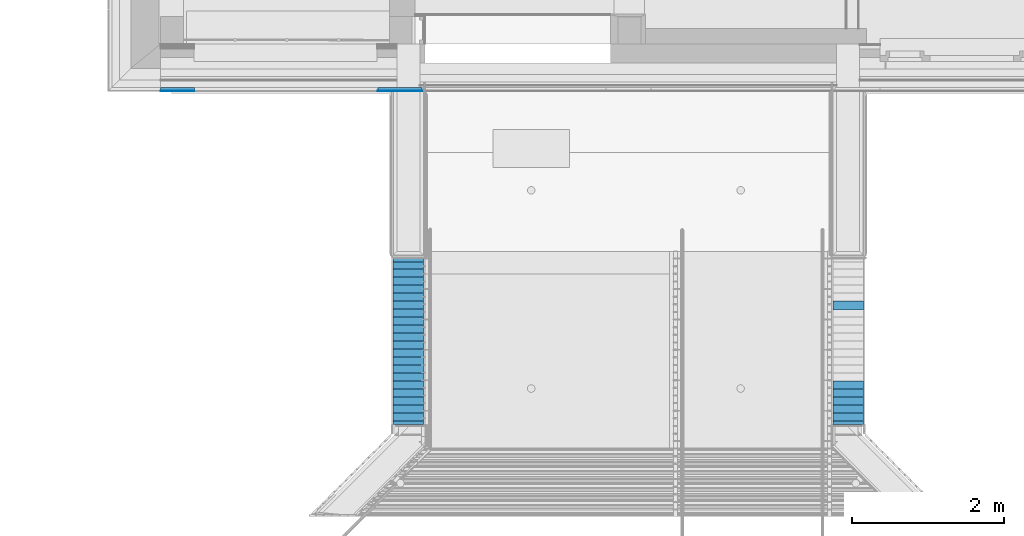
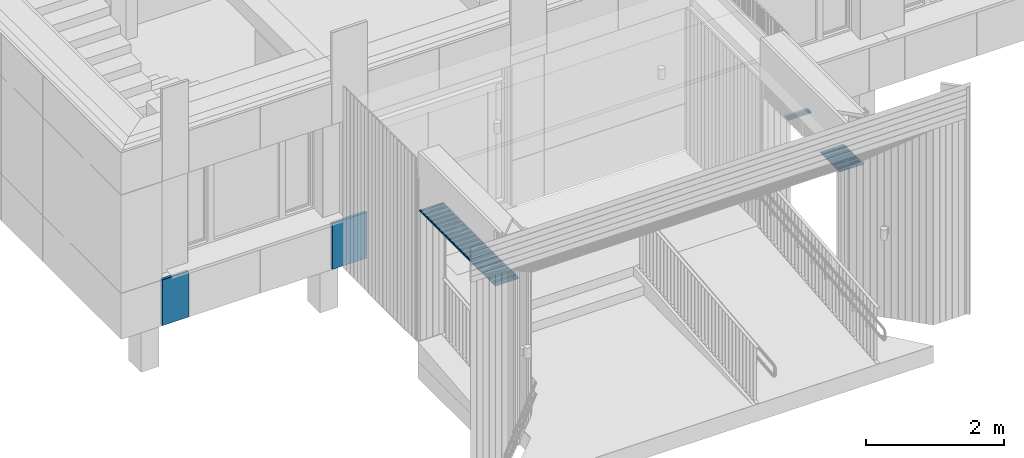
# One storey, part 58 of 418: 33 building element parts, 4 elements without a shape of their own.
"""IFC2X3 building model written with IfcOpenShell, lengths in millimetres."""

from ifc_helpers import new_model, entity, si_unit, converted_unit, derived_unit, money_unit, direction, frame, origin_with_axes, place, context, subcontext, project, spatial, polyline, outline, extrude, material, type_object, element, aggregate, save


model = new_model("IFC2X3")

# Units and contexts
model_context = context("Model", 3, precision=0.01, world=origin_with_axes(), true_north=direction((0.0, 1.0)))
body_context = subcontext(model_context, "Body", "Model", "MODEL_VIEW")
ifc_project = project(units=[si_unit("LENGTHUNIT", "METRE", prefix="MILLI"), si_unit("AREAUNIT", "SQUARE_METRE"), si_unit("VOLUMEUNIT", "CUBIC_METRE"), converted_unit("PLANEANGLEUNIT", "DEGREE", entity("IfcPlaneAngleMeasure", 0.0174532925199), si_unit("PLANEANGLEUNIT", "RADIAN"), dimensions=[0, 0, 0, 0, 0, 0, 0]), si_unit("SOLIDANGLEUNIT", "STERADIAN"), money_unit("EUR"), converted_unit("TIMEUNIT", "Year", entity("IfcTimeMeasure", 31556926.0), si_unit("TIMEUNIT", "SECOND"), dimensions=[0, 0, 1, 0, 0, 0, 0]), si_unit("MASSUNIT", "GRAM", prefix="KILO"), si_unit("THERMODYNAMICTEMPERATUREUNIT", "DEGREE_CELSIUS"), si_unit("LUMINOUSINTENSITYUNIT", "LUMEN"), si_unit("ENERGYUNIT", "JOULE", prefix="MEGA"), derived_unit("THERMALCONDUCTANCEUNIT", [(si_unit("POWERUNIT", "WATT"), 1), (si_unit("LENGTHUNIT", "METRE"), -1), (si_unit("THERMODYNAMICTEMPERATUREUNIT", "KELVIN"), -1)]), derived_unit("SPECIFICHEATCAPACITYUNIT", [(si_unit("ENERGYUNIT", "JOULE"), 1), (si_unit("MASSUNIT", "GRAM", prefix="KILO"), -1), (si_unit("THERMODYNAMICTEMPERATUREUNIT", "KELVIN"), -1)]), derived_unit("MASSDENSITYUNIT", [(si_unit("MASSUNIT", "GRAM", prefix="KILO"), 1), (si_unit("VOLUMEUNIT", "CUBIC_METRE"), -1)])], contexts=[model_context])

# Site, building, storey
site_placement = place(None, origin_with_axes())
site = spatial("IfcSite", under=ifc_project, at=site_placement, Name="Paldiski mnt 245/1, Tallinn, Harjumaa", CompositionType="COMPLEX")
building_placement = place(site_placement, origin_with_axes())
building = spatial("IfcBuilding", under=site, at=building_placement, Name="RKAS Hoone üldnimetus (kasutust iseloomustav) -> IFC Project Manager -> SOLIBRI", CompositionType="ELEMENT")
storey_placement = place(building_placement, origin_with_axes())
storey = spatial("IfcBuildingStorey", under=building, at=storey_placement, Name="Esimene korrus", CompositionType="ELEMENT", Elevation=0.0)

# Covering, building element parts
covering_type = type_object("IfcCoveringType", Name="VS-02_Cembrit_c040 50", PredefinedType="NOTDEFINED")
covering_1_placement = place(storey_placement, frame((-47590.0, -13130.0843011, 0.0), z_axis=(0.0, 0.0, 1.0), x_axis=(1.0, 0.0, 0.0)))
covering_1 = element("IfcCovering", 1, at=covering_1_placement, inside=storey, type_object=covering_type, Name="VS-02", PredefinedType="NOTDEFINED")
ifc_material_1 = material(Name="Cembrit_C040")
building_element_part_1_placement = place(covering_1_placement, origin_with_axes())
building_element_part_1 = element("IfcBuildingElementPart", 2, at=building_element_part_1_placement, material=ifc_material_1, Name="Cembrit_C040", context=body_context, shape_type="SweptSolid", body=[
    extrude(outline(polyline([(0.0, 0.0), (444.0, 0.0), (444.0, 8.0), (0.0, 8.0), (0.0, 0.0)])), origin_with_axes(), (0.0, 0.0, 1.0), 810.0),
])
ifc_material_2 = material(Name="VKR-06_Õhkvahe")
building_element_part_2_placement = place(covering_1_placement, origin_with_axes())
building_element_part_2 = element("IfcBuildingElementPart", 3, at=building_element_part_2_placement, material=ifc_material_2, Name="VKR-06_Õhkvahe", context=body_context, shape_type="SweptSolid", body=[
    extrude(outline(polyline([(0.0, 8.0), (444.0, 8.0), (444.0, 50.0), (0.0, 50.0), (0.0, 8.0)])), origin_with_axes(), (0.0, 0.0, 1.0), 810.0),
])
aggregate(covering_1, [building_element_part_1, building_element_part_2])

# Proxy, building element parts
building_element_proxy_type = type_object("IfcBuildingElementProxyType", Name="Laudis ava ülemine serv_01 2200 x 21", PredefinedType="NOTDEFINED")
proxy_1_placement = place(storey_placement, frame((-44140.0, -15302.0843015, 2280.0), z_axis=(0.0, 0.0, 1.0), x_axis=(-1.0, 0.0, 0.0)))
proxy_1 = element("IfcBuildingElementProxy", 4, at=proxy_1_placement, inside=storey, type_object=building_element_proxy_type, Name="Varikatus")
ifc_material_3 = material(Name="Laudis 5072 Honka 45 horisontaalne")
building_element_part_3_placement = place(proxy_1_placement, origin_with_axes())
building_element_part_3 = element("IfcBuildingElementPart", 5, at=building_element_part_3_placement, material=ifc_material_3, Name="Laudis 5072 Honka 45 horisontaalne", context=body_context, shape_type="SweptSolid", body=[
    extrude(outline(polyline([(73.1789257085, 0.0), (173.178925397, 0.0), (173.178925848, 9.99999952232), (153.178926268, 10.0000004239), (153.178925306, 21.0000001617), (138.602738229, 21.0000005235), (138.602737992, 14.000001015), (132.96206958, 14.0000003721), (132.962068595, 21.0000008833), (118.133576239, 20.9999999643), (118.133576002, 14.0000004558), (112.006635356, 14.0000000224), (112.006635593, 20.9999995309), (97.0675184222, 20.9999996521), (97.0675181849, 14.0000001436), (90.7050211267, 14.0000004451), (90.7050201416, 21.0000009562), (53.1789256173, 20.9999999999), (53.1789252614, 10.5000007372), (73.1789258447, 10.5000010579), (73.1789257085, 0.0)])), frame((0.0, 0.0, 0.0), z_axis=(1.0, 0.0, 0.0), x_axis=(0.0, 1.0, 0.0)), (0.0, 0.0, 1.0), 400.0),
])
building_element_part_4_placement = place(proxy_1_placement, origin_with_axes())
building_element_part_4 = element("IfcBuildingElementPart", 6, at=building_element_part_4_placement, material=ifc_material_3, Name="Laudis 5072 Honka 45 horisontaalne", context=body_context, shape_type="SweptSolid", body=[
    extrude(outline(polyline([(0.0, 0.0), (68.1789252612, 0.0), (68.178925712, 9.99999952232), (48.1789261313, 10.0000004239), (48.17892517, 21.0000001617), (33.6027380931, 21.0000005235), (33.6027378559, 14.000001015), (27.9620694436, 14.0000003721), (27.9620684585, 21.0000008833), (13.1335761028, 20.9999999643), (13.1335758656, 14.0000004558), (7.00663521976, 14.0000000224), (7.006635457, 20.9999995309), (0.0, 20.9999995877), (0.0, 0.0)])), frame((0.0, 0.0, 0.0), z_axis=(1.0, 0.0, 0.0), x_axis=(0.0, 1.0, 0.0)), (0.0, 0.0, 1.0), 400.0),
])
building_element_part_5_placement = place(proxy_1_placement, origin_with_axes())
building_element_part_5 = element("IfcBuildingElementPart", 7, at=building_element_part_5_placement, material=ifc_material_3, Name="Laudis 5072 Honka 45 horisontaalne", context=body_context, shape_type="SweptSolid", body=[
    extrude(outline(polyline([(178.178925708, 0.0), (278.178925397, 0.0), (278.178925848, 9.99999952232), (258.178926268, 10.0000004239), (258.178925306, 21.0000001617), (243.602738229, 21.0000005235), (243.602737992, 14.000001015), (237.96206958, 14.0000003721), (237.962068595, 21.0000008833), (223.133576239, 20.9999999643), (223.133576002, 14.0000004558), (217.006635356, 14.0000000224), (217.006635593, 20.9999995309), (202.067518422, 20.9999996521), (202.067518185, 14.0000001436), (195.705021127, 14.0000004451), (195.705020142, 21.0000009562), (158.178925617, 20.9999999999), (158.178925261, 10.5000007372), (178.178925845, 10.5000010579), (178.178925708, 0.0)])), frame((0.0, 0.0, 0.0), z_axis=(1.0, 0.0, 0.0), x_axis=(0.0, 1.0, 0.0)), (0.0, 0.0, 1.0), 400.0),
])
building_element_part_6_placement = place(proxy_1_placement, origin_with_axes())
building_element_part_6 = element("IfcBuildingElementPart", 8, at=building_element_part_6_placement, material=ifc_material_3, Name="Laudis 5072 Honka 45 horisontaalne", context=body_context, shape_type="SweptSolid", body=[
    extrude(outline(polyline([(283.178925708, 0.0), (383.178925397, 0.0), (383.178925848, 9.99999952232), (363.178926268, 10.0000004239), (363.178925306, 21.0000001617), (348.602738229, 21.0000005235), (348.602737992, 14.000001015), (342.96206958, 14.0000003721), (342.962068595, 21.0000008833), (328.133576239, 20.9999999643), (328.133576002, 14.0000004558), (322.006635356, 14.0000000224), (322.006635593, 20.9999995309), (307.067518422, 20.9999996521), (307.067518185, 14.0000001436), (300.705021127, 14.0000004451), (300.705020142, 21.0000009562), (263.178925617, 20.9999999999), (263.178925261, 10.5000007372), (283.178925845, 10.5000010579), (283.178925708, 0.0)])), frame((0.0, 0.0, 0.0), z_axis=(1.0, 0.0, 0.0), x_axis=(0.0, 1.0, 0.0)), (0.0, 0.0, 1.0), 400.0),
])
building_element_part_7_placement = place(proxy_1_placement, origin_with_axes())
building_element_part_7 = element("IfcBuildingElementPart", 9, at=building_element_part_7_placement, material=ifc_material_3, Name="Laudis 5072 Honka 45 horisontaalne", context=body_context, shape_type="SweptSolid", body=[
    extrude(outline(polyline([(388.178925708, 0.0), (488.178925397, 0.0), (488.178925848, 9.99999952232), (468.178926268, 10.0000004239), (468.178925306, 21.0000001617), (453.602738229, 21.0000005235), (453.602737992, 14.000001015), (447.96206958, 14.0000003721), (447.962068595, 21.0000008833), (433.133576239, 20.9999999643), (433.133576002, 14.0000004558), (427.006635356, 14.0000000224), (427.006635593, 20.9999995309), (412.067518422, 20.9999996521), (412.067518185, 14.0000001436), (405.705021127, 14.0000004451), (405.705020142, 21.0000009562), (368.178925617, 20.9999999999), (368.178925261, 10.5000007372), (388.178925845, 10.5000010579), (388.178925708, 0.0)])), frame((0.0, 0.0, 0.0), z_axis=(1.0, 0.0, 0.0), x_axis=(0.0, 1.0, 0.0)), (0.0, 0.0, 1.0), 400.0),
])
building_element_part_8_placement = place(proxy_1_placement, origin_with_axes())
building_element_part_8 = element("IfcBuildingElementPart", 10, at=building_element_part_8_placement, material=ifc_material_3, Name="Laudis 5072 Honka 45 horisontaalne", context=body_context, shape_type="SweptSolid", body=[
    extrude(outline(polyline([(493.178925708, 0.0), (593.178925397, 0.0), (593.178925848, 9.99999952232), (573.178926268, 10.0000004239), (573.178925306, 21.0000001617), (558.602738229, 21.0000005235), (558.602737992, 14.000001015), (552.96206958, 14.0000003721), (552.962068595, 21.0000008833), (538.133576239, 20.9999999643), (538.133576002, 14.0000004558), (532.006635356, 14.0000000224), (532.006635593, 20.9999995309), (517.067518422, 20.9999996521), (517.067518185, 14.0000001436), (510.705021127, 14.0000004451), (510.705020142, 21.0000009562), (473.178925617, 20.9999999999), (473.178925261, 10.5000007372), (493.178925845, 10.5000010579), (493.178925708, 0.0)])), frame((0.0, 0.0, 0.0), z_axis=(1.0, 0.0, 0.0), x_axis=(0.0, 1.0, 0.0)), (0.0, 0.0, 1.0), 400.0),
])
building_element_part_9_placement = place(proxy_1_placement, origin_with_axes())
building_element_part_9 = element("IfcBuildingElementPart", 11, at=building_element_part_9_placement, material=ifc_material_3, Name="Laudis 5072 Honka 45 horisontaalne", context=body_context, shape_type="SweptSolid", body=[
    extrude(outline(polyline([(598.178925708, 0.0), (698.178925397, 0.0), (698.178925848, 9.99999952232), (678.178926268, 10.0000004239), (678.178925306, 21.0000001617), (663.602738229, 21.0000005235), (663.602737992, 14.000001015), (657.96206958, 14.0000003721), (657.962068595, 21.0000008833), (643.133576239, 20.9999999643), (643.133576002, 14.0000004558), (637.006635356, 14.0000000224), (637.006635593, 20.9999995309), (622.067518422, 20.9999996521), (622.067518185, 14.0000001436), (615.705021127, 14.0000004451), (615.705020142, 21.0000009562), (578.178925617, 20.9999999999), (578.178925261, 10.5000007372), (598.178925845, 10.5000010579), (598.178925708, 0.0)])), frame((0.0, 0.0, 0.0), z_axis=(1.0, 0.0, 0.0), x_axis=(0.0, 1.0, 0.0)), (0.0, 0.0, 1.0), 400.0),
])
building_element_part_10_placement = place(proxy_1_placement, origin_with_axes())
building_element_part_10 = element("IfcBuildingElementPart", 12, at=building_element_part_10_placement, material=ifc_material_3, Name="Laudis 5072 Honka 45 horisontaalne", context=body_context, shape_type="SweptSolid", body=[
    extrude(outline(polyline([(703.178925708, 0.0), (803.178925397, 0.0), (803.178925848, 9.99999952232), (783.178926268, 10.0000004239), (783.178925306, 21.0000001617), (768.602738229, 21.0000005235), (768.602737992, 14.000001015), (762.96206958, 14.0000003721), (762.962068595, 21.0000008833), (748.133576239, 20.9999999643), (748.133576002, 14.0000004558), (742.006635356, 14.0000000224), (742.006635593, 20.9999995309), (727.067518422, 20.9999996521), (727.067518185, 14.0000001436), (720.705021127, 14.0000004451), (720.705020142, 21.0000009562), (683.178925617, 20.9999999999), (683.178925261, 10.5000007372), (703.178925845, 10.5000010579), (703.178925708, 0.0)])), frame((0.0, 0.0, 0.0), z_axis=(1.0, 0.0, 0.0), x_axis=(0.0, 1.0, 0.0)), (0.0, 0.0, 1.0), 400.0),
])
building_element_part_11_placement = place(proxy_1_placement, origin_with_axes())
building_element_part_11 = element("IfcBuildingElementPart", 13, at=building_element_part_11_placement, material=ifc_material_3, Name="Laudis 5072 Honka 45 horisontaalne", context=body_context, shape_type="SweptSolid", body=[
    extrude(outline(polyline([(808.178925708, 0.0), (908.178925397, 0.0), (908.178925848, 9.99999952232), (888.178926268, 10.0000004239), (888.178925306, 21.0000001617), (873.602738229, 21.0000005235), (873.602737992, 14.000001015), (867.96206958, 14.0000003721), (867.962068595, 21.0000008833), (853.133576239, 20.9999999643), (853.133576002, 14.0000004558), (847.006635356, 14.0000000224), (847.006635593, 20.9999995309), (832.067518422, 20.9999996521), (832.067518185, 14.0000001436), (825.705021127, 14.0000004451), (825.705020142, 21.0000009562), (788.178925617, 20.9999999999), (788.178925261, 10.5000007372), (808.178925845, 10.5000010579), (808.178925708, 0.0)])), frame((0.0, 0.0, 0.0), z_axis=(1.0, 0.0, 0.0), x_axis=(0.0, 1.0, 0.0)), (0.0, 0.0, 1.0), 400.0),
])
building_element_part_12_placement = place(proxy_1_placement, origin_with_axes())
building_element_part_12 = element("IfcBuildingElementPart", 14, at=building_element_part_12_placement, material=ifc_material_3, Name="Laudis 5072 Honka 45 horisontaalne", context=body_context, shape_type="SweptSolid", body=[
    extrude(outline(polyline([(913.178925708, 0.0), (1013.1789254, 0.0), (1013.17892585, 9.99999952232), (993.178926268, 10.0000004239), (993.178925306, 21.0000001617), (978.602738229, 21.0000005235), (978.602737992, 14.000001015), (972.96206958, 14.0000003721), (972.962068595, 21.0000008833), (958.133576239, 20.9999999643), (958.133576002, 14.0000004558), (952.006635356, 14.0000000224), (952.006635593, 20.9999995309), (937.067518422, 20.9999996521), (937.067518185, 14.0000001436), (930.705021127, 14.0000004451), (930.705020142, 21.0000009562), (893.178925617, 20.9999999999), (893.178925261, 10.5000007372), (913.178925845, 10.5000010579), (913.178925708, 0.0)])), frame((0.0, 0.0, 0.0), z_axis=(1.0, 0.0, 0.0), x_axis=(0.0, 1.0, 0.0)), (0.0, 0.0, 1.0), 400.0),
])
building_element_part_13_placement = place(proxy_1_placement, origin_with_axes())
building_element_part_13 = element("IfcBuildingElementPart", 15, at=building_element_part_13_placement, material=ifc_material_3, Name="Laudis 5072 Honka 45 horisontaalne", context=body_context, shape_type="SweptSolid", body=[
    extrude(outline(polyline([(1018.17892571, 0.0), (1118.1789254, 0.0), (1118.17892585, 9.99999952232), (1098.17892627, 10.0000004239), (1098.17892531, 21.0000001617), (1083.60273823, 21.0000005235), (1083.60273799, 14.000001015), (1077.96206958, 14.0000003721), (1077.96206859, 21.0000008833), (1063.13357624, 20.9999999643), (1063.133576, 14.0000004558), (1057.00663536, 14.0000000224), (1057.00663559, 20.9999995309), (1042.06751842, 20.9999996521), (1042.06751818, 14.0000001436), (1035.70502113, 14.0000004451), (1035.70502014, 21.0000009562), (998.178925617, 20.9999999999), (998.178925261, 10.5000007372), (1018.17892584, 10.5000010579), (1018.17892571, 0.0)])), frame((0.0, 0.0, 0.0), z_axis=(1.0, 0.0, 0.0), x_axis=(0.0, 1.0, 0.0)), (0.0, 0.0, 1.0), 400.0),
])
building_element_part_14_placement = place(proxy_1_placement, origin_with_axes())
building_element_part_14 = element("IfcBuildingElementPart", 16, at=building_element_part_14_placement, material=ifc_material_3, Name="Laudis 5072 Honka 45 horisontaalne", context=body_context, shape_type="SweptSolid", body=[
    extrude(outline(polyline([(1123.17892571, 0.0), (1223.1789254, 0.0), (1223.17892585, 9.99999952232), (1203.17892627, 10.0000004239), (1203.17892531, 21.0000001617), (1188.60273823, 21.0000005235), (1188.60273799, 14.000001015), (1182.96206958, 14.0000003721), (1182.96206859, 21.0000008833), (1168.13357624, 20.9999999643), (1168.133576, 14.0000004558), (1162.00663536, 14.0000000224), (1162.00663559, 20.9999995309), (1147.06751842, 20.9999996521), (1147.06751818, 14.0000001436), (1140.70502113, 14.0000004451), (1140.70502014, 21.0000009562), (1103.17892562, 20.9999999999), (1103.17892526, 10.5000007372), (1123.17892584, 10.5000010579), (1123.17892571, 0.0)])), frame((0.0, 0.0, 0.0), z_axis=(1.0, 0.0, 0.0), x_axis=(0.0, 1.0, 0.0)), (0.0, 0.0, 1.0), 400.0),
])
building_element_part_15_placement = place(proxy_1_placement, origin_with_axes())
building_element_part_15 = element("IfcBuildingElementPart", 17, at=building_element_part_15_placement, material=ifc_material_3, Name="Laudis 5072 Honka 45 horisontaalne", context=body_context, shape_type="SweptSolid", body=[
    extrude(outline(polyline([(1228.17892571, 0.0), (1328.1789254, 0.0), (1328.17892585, 9.99999952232), (1308.17892627, 10.0000004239), (1308.17892531, 21.0000001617), (1293.60273823, 21.0000005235), (1293.60273799, 14.000001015), (1287.96206958, 14.0000003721), (1287.96206859, 21.0000008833), (1273.13357624, 20.9999999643), (1273.133576, 14.0000004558), (1267.00663536, 14.0000000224), (1267.00663559, 20.9999995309), (1252.06751842, 20.9999996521), (1252.06751818, 14.0000001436), (1245.70502113, 14.0000004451), (1245.70502014, 21.0000009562), (1208.17892562, 20.9999999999), (1208.17892526, 10.5000007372), (1228.17892584, 10.5000010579), (1228.17892571, 0.0)])), frame((0.0, 0.0, 0.0), z_axis=(1.0, 0.0, 0.0), x_axis=(0.0, 1.0, 0.0)), (0.0, 0.0, 1.0), 400.0),
])
building_element_part_16_placement = place(proxy_1_placement, origin_with_axes())
building_element_part_16 = element("IfcBuildingElementPart", 18, at=building_element_part_16_placement, material=ifc_material_3, Name="Laudis 5072 Honka 45 horisontaalne", context=body_context, shape_type="SweptSolid", body=[
    extrude(outline(polyline([(1333.17892571, 0.0), (1433.1789254, 0.0), (1433.17892585, 9.99999952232), (1413.17892627, 10.0000004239), (1413.17892531, 21.0000001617), (1398.60273823, 21.0000005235), (1398.60273799, 14.000001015), (1392.96206958, 14.0000003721), (1392.96206859, 21.0000008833), (1378.13357624, 20.9999999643), (1378.133576, 14.0000004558), (1372.00663536, 14.0000000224), (1372.00663559, 20.9999995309), (1357.06751842, 20.9999996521), (1357.06751818, 14.0000001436), (1350.70502113, 14.0000004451), (1350.70502014, 21.0000009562), (1313.17892562, 20.9999999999), (1313.17892526, 10.5000007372), (1333.17892584, 10.5000010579), (1333.17892571, 0.0)])), frame((0.0, 0.0, 0.0), z_axis=(1.0, 0.0, 0.0), x_axis=(0.0, 1.0, 0.0)), (0.0, 0.0, 1.0), 400.0),
])
building_element_part_17_placement = place(proxy_1_placement, origin_with_axes())
building_element_part_17 = element("IfcBuildingElementPart", 19, at=building_element_part_17_placement, material=ifc_material_3, Name="Laudis 5072 Honka 45 horisontaalne", context=body_context, shape_type="SweptSolid", body=[
    extrude(outline(polyline([(1438.17892571, 0.0), (1538.1789254, 0.0), (1538.17892585, 9.99999952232), (1518.17892627, 10.0000004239), (1518.17892531, 21.0000001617), (1503.60273823, 21.0000005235), (1503.60273799, 14.000001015), (1497.96206958, 14.0000003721), (1497.96206859, 21.0000008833), (1483.13357624, 20.9999999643), (1483.133576, 14.0000004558), (1477.00663536, 14.0000000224), (1477.00663559, 20.9999995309), (1462.06751842, 20.9999996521), (1462.06751818, 14.0000001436), (1455.70502113, 14.0000004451), (1455.70502014, 21.0000009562), (1418.17892562, 20.9999999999), (1418.17892526, 10.5000007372), (1438.17892584, 10.5000010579), (1438.17892571, 0.0)])), frame((0.0, 0.0, 0.0), z_axis=(1.0, 0.0, 0.0), x_axis=(0.0, 1.0, 0.0)), (0.0, 0.0, 1.0), 400.0),
])
building_element_part_18_placement = place(proxy_1_placement, origin_with_axes())
building_element_part_18 = element("IfcBuildingElementPart", 20, at=building_element_part_18_placement, material=ifc_material_3, Name="Laudis 5072 Honka 45 horisontaalne", context=body_context, shape_type="SweptSolid", body=[
    extrude(outline(polyline([(1543.17892571, 0.0), (1643.1789254, 0.0), (1643.17892585, 9.99999952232), (1623.17892627, 10.0000004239), (1623.17892531, 21.0000001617), (1608.60273823, 21.0000005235), (1608.60273799, 14.000001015), (1602.96206958, 14.0000003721), (1602.96206859, 21.0000008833), (1588.13357624, 20.9999999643), (1588.133576, 14.0000004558), (1582.00663536, 14.0000000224), (1582.00663559, 20.9999995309), (1567.06751842, 20.9999996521), (1567.06751818, 14.0000001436), (1560.70502113, 14.0000004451), (1560.70502014, 21.0000009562), (1523.17892562, 20.9999999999), (1523.17892526, 10.5000007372), (1543.17892584, 10.5000010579), (1543.17892571, 0.0)])), frame((0.0, 0.0, 0.0), z_axis=(1.0, 0.0, 0.0), x_axis=(0.0, 1.0, 0.0)), (0.0, 0.0, 1.0), 400.0),
])
building_element_part_19_placement = place(proxy_1_placement, origin_with_axes())
building_element_part_19 = element("IfcBuildingElementPart", 21, at=building_element_part_19_placement, material=ifc_material_3, Name="Laudis 5072 Honka 45 horisontaalne", context=body_context, shape_type="SweptSolid", body=[
    extrude(outline(polyline([(1648.17892571, 0.0), (1748.1789254, 0.0), (1748.17892585, 9.99999952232), (1728.17892627, 10.0000004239), (1728.17892531, 21.0000001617), (1713.60273823, 21.0000005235), (1713.60273799, 14.000001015), (1707.96206958, 14.0000003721), (1707.96206859, 21.0000008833), (1693.13357624, 20.9999999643), (1693.133576, 14.0000004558), (1687.00663536, 14.0000000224), (1687.00663559, 20.9999995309), (1672.06751842, 20.9999996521), (1672.06751818, 14.0000001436), (1665.70502113, 14.0000004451), (1665.70502014, 21.0000009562), (1628.17892562, 20.9999999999), (1628.17892526, 10.5000007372), (1648.17892584, 10.5000010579), (1648.17892571, 0.0)])), frame((0.0, 0.0, 0.0), z_axis=(1.0, 0.0, 0.0), x_axis=(0.0, 1.0, 0.0)), (0.0, 0.0, 1.0), 400.0),
])
building_element_part_20_placement = place(proxy_1_placement, origin_with_axes())
building_element_part_20 = element("IfcBuildingElementPart", 22, at=building_element_part_20_placement, material=ifc_material_3, Name="Laudis 5072 Honka 45 horisontaalne", context=body_context, shape_type="SweptSolid", body=[
    extrude(outline(polyline([(1753.17892571, 0.0), (1853.1789254, 0.0), (1853.17892585, 9.99999952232), (1833.17892627, 10.0000004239), (1833.17892531, 21.0000001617), (1818.60273823, 21.0000005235), (1818.60273799, 14.000001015), (1812.96206958, 14.0000003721), (1812.96206859, 21.0000008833), (1798.13357624, 20.9999999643), (1798.133576, 14.0000004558), (1792.00663536, 14.0000000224), (1792.00663559, 20.9999995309), (1777.06751842, 20.9999996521), (1777.06751818, 14.0000001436), (1770.70502113, 14.0000004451), (1770.70502014, 21.0000009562), (1733.17892562, 20.9999999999), (1733.17892526, 10.5000007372), (1753.17892584, 10.5000010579), (1753.17892571, 0.0)])), frame((0.0, 0.0, 0.0), z_axis=(1.0, 0.0, 0.0), x_axis=(0.0, 1.0, 0.0)), (0.0, 0.0, 1.0), 400.0),
])
building_element_part_21_placement = place(proxy_1_placement, origin_with_axes())
building_element_part_21 = element("IfcBuildingElementPart", 23, at=building_element_part_21_placement, material=ifc_material_3, Name="Laudis 5072 Honka 45 horisontaalne", context=body_context, shape_type="SweptSolid", body=[
    extrude(outline(polyline([(1858.17892571, 0.0), (1958.1789254, 0.0), (1958.17892585, 9.99999952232), (1938.17892627, 10.0000004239), (1938.17892531, 21.0000001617), (1923.60273823, 21.0000005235), (1923.60273799, 14.000001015), (1917.96206958, 14.0000003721), (1917.96206859, 21.0000008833), (1903.13357624, 20.9999999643), (1903.133576, 14.0000004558), (1897.00663536, 14.0000000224), (1897.00663559, 20.9999995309), (1882.06751842, 20.9999996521), (1882.06751818, 14.0000001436), (1875.70502113, 14.0000004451), (1875.70502014, 21.0000009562), (1838.17892562, 20.9999999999), (1838.17892526, 10.5000007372), (1858.17892584, 10.5000010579), (1858.17892571, 0.0)])), frame((0.0, 0.0, 0.0), z_axis=(1.0, 0.0, 0.0), x_axis=(0.0, 1.0, 0.0)), (0.0, 0.0, 1.0), 400.0),
])
building_element_part_22_placement = place(proxy_1_placement, origin_with_axes())
building_element_part_22 = element("IfcBuildingElementPart", 24, at=building_element_part_22_placement, material=ifc_material_3, Name="Laudis 5072 Honka 45 horisontaalne", context=body_context, shape_type="SweptSolid", body=[
    extrude(outline(polyline([(1963.17892571, 0.0), (2063.1789254, 0.0), (2063.17892585, 9.99999952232), (2043.17892627, 10.0000004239), (2043.17892531, 21.0000001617), (2028.60273823, 21.0000005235), (2028.60273799, 14.000001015), (2022.96206958, 14.0000003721), (2022.96206859, 21.0000008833), (2008.13357624, 20.9999999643), (2008.133576, 14.0000004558), (2002.00663536, 14.0000000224), (2002.00663559, 20.9999995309), (1987.06751842, 20.9999996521), (1987.06751818, 14.0000001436), (1980.70502113, 14.0000004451), (1980.70502014, 21.0000009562), (1943.17892562, 20.9999999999), (1943.17892526, 10.5000007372), (1963.17892584, 10.5000010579), (1963.17892571, 0.0)])), frame((0.0, 0.0, 0.0), z_axis=(1.0, 0.0, 0.0), x_axis=(0.0, 1.0, 0.0)), (0.0, 0.0, 1.0), 400.0),
])
building_element_part_23_placement = place(proxy_1_placement, origin_with_axes())
building_element_part_23 = element("IfcBuildingElementPart", 25, at=building_element_part_23_placement, material=ifc_material_3, Name="Laudis 5072 Honka 45 horisontaalne", context=body_context, shape_type="SweptSolid", body=[
    extrude(outline(polyline([(2068.17892571, 0.0), (2168.1789254, 0.0), (2168.17892585, 9.99999952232), (2148.17892627, 10.0000004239), (2148.17892531, 21.0000001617), (2133.60273823, 21.0000005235), (2133.60273799, 14.000001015), (2127.96206958, 14.0000003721), (2127.96206859, 21.0000008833), (2113.13357624, 20.9999999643), (2113.133576, 14.0000004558), (2107.00663536, 14.0000000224), (2107.00663559, 20.9999995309), (2092.06751842, 20.9999996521), (2092.06751818, 14.0000001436), (2085.70502113, 14.0000004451), (2085.70502014, 21.0000009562), (2048.17892562, 20.9999999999), (2048.17892526, 10.5000007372), (2068.17892584, 10.5000010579), (2068.17892571, 0.0)])), frame((0.0, 0.0, 0.0), z_axis=(1.0, 0.0, 0.0), x_axis=(0.0, 1.0, 0.0)), (0.0, 0.0, 1.0), 400.0),
])
building_element_part_24_placement = place(proxy_1_placement, origin_with_axes())
building_element_part_24 = element("IfcBuildingElementPart", 26, at=building_element_part_24_placement, material=ifc_material_3, Name="Laudis 5072 Honka 45 horisontaalne", context=body_context, shape_type="SweptSolid", body=[
    extrude(outline(polyline([(2173.17892571, 0.0), (2199.8250624, 0.0), (2199.8250624, 20.9999996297), (2197.06751842, 20.9999996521), (2197.06751818, 14.0000001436), (2190.70502113, 14.0000004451), (2190.70502014, 21.0000009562), (2153.17892562, 20.9999999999), (2153.17892526, 10.5000007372), (2173.17892584, 10.5000010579), (2173.17892571, 0.0)])), frame((0.0, 0.0, 0.0), z_axis=(1.0, 0.0, 0.0), x_axis=(0.0, 1.0, 0.0)), (0.0, 0.0, 1.0), 400.0),
])
aggregate(proxy_1, [building_element_part_3, building_element_part_4, building_element_part_5, building_element_part_6, building_element_part_7, building_element_part_8, building_element_part_9, building_element_part_10, building_element_part_11, building_element_part_12, building_element_part_13, building_element_part_14, building_element_part_15, building_element_part_16, building_element_part_17, building_element_part_18, building_element_part_19, building_element_part_20, building_element_part_21, building_element_part_22, building_element_part_23, building_element_part_24])

proxy_2_placement = place(storey_placement, frame((-38766.0, -15302.0843015, 2280.0), z_axis=(0.0, 0.0, 1.0), x_axis=(1.0, 0.0, 0.0)))
proxy_2 = element("IfcBuildingElementProxy", 27, at=proxy_2_placement, inside=storey, type_object=building_element_proxy_type, Name="Varikatus")
building_element_part_25_placement = place(proxy_2_placement, origin_with_axes())
building_element_part_25 = element("IfcBuildingElementPart", 28, at=building_element_part_25_placement, material=ifc_material_3, Name="Laudis 5072 Honka 45 horisontaalne", context=body_context, shape_type="SweptSolid", body=[
    extrude(outline(polyline([(598.178925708, 0.0), (698.178925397, 0.0), (698.178925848, 9.99999952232), (678.178926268, 10.0000004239), (678.178925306, 21.0000001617), (663.602738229, 21.0000005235), (663.602737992, 14.000001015), (657.96206958, 14.0000003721), (657.962068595, 21.0000008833), (643.133576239, 20.9999999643), (643.133576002, 14.0000004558), (637.006635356, 14.0000000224), (637.006635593, 20.9999995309), (622.067518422, 20.9999996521), (622.067518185, 14.0000001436), (615.705021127, 14.0000004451), (615.705020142, 21.0000009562), (578.178925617, 20.9999999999), (578.178925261, 10.5000007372), (598.178925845, 10.5000010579), (598.178925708, 0.0)])), frame((0.0, 0.0, 0.0), z_axis=(-1.0, 0.0, 0.0), x_axis=(0.0, -1.0, 0.0)), (0.0, 0.0, -1.0), 396.0),
])
building_element_part_26_placement = place(proxy_2_placement, origin_with_axes())
building_element_part_26 = element("IfcBuildingElementPart", 29, at=building_element_part_26_placement, material=ifc_material_3, Name="Laudis 5072 Honka 45 horisontaalne", context=body_context, shape_type="SweptSolid", body=[
    extrude(outline(polyline([(1648.17892571, 0.0), (1748.1789254, 0.0), (1748.17892585, 9.99999952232), (1728.17892627, 10.0000004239), (1728.17892531, 21.0000001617), (1713.60273823, 21.0000005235), (1713.60273799, 14.000001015), (1707.96206958, 14.0000003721), (1707.96206859, 21.0000008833), (1693.13357624, 20.9999999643), (1693.133576, 14.0000004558), (1687.00663536, 14.0000000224), (1687.00663559, 20.9999995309), (1672.06751842, 20.9999996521), (1672.06751818, 14.0000001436), (1665.70502113, 14.0000004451), (1665.70502014, 21.0000009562), (1628.17892562, 20.9999999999), (1628.17892526, 10.5000007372), (1648.17892584, 10.5000010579), (1648.17892571, 0.0)])), frame((0.0, 0.0, 0.0), z_axis=(-1.0, 0.0, 0.0), x_axis=(0.0, -1.0, 0.0)), (0.0, 0.0, -1.0), 396.0),
])
building_element_part_27_placement = place(proxy_2_placement, origin_with_axes())
building_element_part_27 = element("IfcBuildingElementPart", 30, at=building_element_part_27_placement, material=ifc_material_3, Name="Laudis 5072 Honka 45 horisontaalne", context=body_context, shape_type="SweptSolid", body=[
    extrude(outline(polyline([(1753.17892571, 0.0), (1853.1789254, 0.0), (1853.17892585, 9.99999952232), (1833.17892627, 10.0000004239), (1833.17892531, 21.0000001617), (1818.60273823, 21.0000005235), (1818.60273799, 14.000001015), (1812.96206958, 14.0000003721), (1812.96206859, 21.0000008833), (1798.13357624, 20.9999999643), (1798.133576, 14.0000004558), (1792.00663536, 14.0000000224), (1792.00663559, 20.9999995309), (1777.06751842, 20.9999996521), (1777.06751818, 14.0000001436), (1770.70502113, 14.0000004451), (1770.70502014, 21.0000009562), (1733.17892562, 20.9999999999), (1733.17892526, 10.5000007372), (1753.17892584, 10.5000010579), (1753.17892571, 0.0)])), frame((0.0, 0.0, 0.0), z_axis=(-1.0, 0.0, 0.0), x_axis=(0.0, -1.0, 0.0)), (0.0, 0.0, -1.0), 396.0),
])
building_element_part_28_placement = place(proxy_2_placement, origin_with_axes())
building_element_part_28 = element("IfcBuildingElementPart", 31, at=building_element_part_28_placement, material=ifc_material_3, Name="Laudis 5072 Honka 45 horisontaalne", context=body_context, shape_type="SweptSolid", body=[
    extrude(outline(polyline([(1858.17892571, 0.0), (1958.1789254, 0.0), (1958.17892585, 9.99999952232), (1938.17892627, 10.0000004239), (1938.17892531, 21.0000001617), (1923.60273823, 21.0000005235), (1923.60273799, 14.000001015), (1917.96206958, 14.0000003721), (1917.96206859, 21.0000008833), (1903.13357624, 20.9999999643), (1903.133576, 14.0000004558), (1897.00663536, 14.0000000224), (1897.00663559, 20.9999995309), (1882.06751842, 20.9999996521), (1882.06751818, 14.0000001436), (1875.70502113, 14.0000004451), (1875.70502014, 21.0000009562), (1838.17892562, 20.9999999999), (1838.17892526, 10.5000007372), (1858.17892584, 10.5000010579), (1858.17892571, 0.0)])), frame((0.0, 0.0, 0.0), z_axis=(-1.0, 0.0, 0.0), x_axis=(0.0, -1.0, 0.0)), (0.0, 0.0, -1.0), 396.0),
])
building_element_part_29_placement = place(proxy_2_placement, origin_with_axes())
building_element_part_29 = element("IfcBuildingElementPart", 32, at=building_element_part_29_placement, material=ifc_material_3, Name="Laudis 5072 Honka 45 horisontaalne", context=body_context, shape_type="SweptSolid", body=[
    extrude(outline(polyline([(1963.17892571, 0.0), (2063.1789254, 0.0), (2063.17892585, 9.99999952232), (2043.17892627, 10.0000004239), (2043.17892531, 21.0000001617), (2028.60273823, 21.0000005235), (2028.60273799, 14.000001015), (2022.96206958, 14.0000003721), (2022.96206859, 21.0000008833), (2008.13357624, 20.9999999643), (2008.133576, 14.0000004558), (2002.00663536, 14.0000000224), (2002.00663559, 20.9999995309), (1987.06751842, 20.9999996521), (1987.06751818, 14.0000001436), (1980.70502113, 14.0000004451), (1980.70502014, 21.0000009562), (1943.17892562, 20.9999999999), (1943.17892526, 10.5000007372), (1963.17892584, 10.5000010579), (1963.17892571, 0.0)])), frame((0.0, 0.0, 0.0), z_axis=(-1.0, 0.0, 0.0), x_axis=(0.0, -1.0, 0.0)), (0.0, 0.0, -1.0), 396.0),
])
building_element_part_30_placement = place(proxy_2_placement, origin_with_axes())
building_element_part_30 = element("IfcBuildingElementPart", 33, at=building_element_part_30_placement, material=ifc_material_3, Name="Laudis 5072 Honka 45 horisontaalne", context=body_context, shape_type="SweptSolid", body=[
    extrude(outline(polyline([(2068.17892571, 0.0), (2168.1789254, 0.0), (2168.17892585, 9.99999952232), (2148.17892627, 10.0000004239), (2148.17892531, 21.0000001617), (2133.60273823, 21.0000005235), (2133.60273799, 14.000001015), (2127.96206958, 14.0000003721), (2127.96206859, 21.0000008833), (2113.13357624, 20.9999999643), (2113.133576, 14.0000004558), (2107.00663536, 14.0000000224), (2107.00663559, 20.9999995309), (2092.06751842, 20.9999996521), (2092.06751818, 14.0000001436), (2085.70502113, 14.0000004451), (2085.70502014, 21.0000009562), (2048.17892562, 20.9999999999), (2048.17892526, 10.5000007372), (2068.17892584, 10.5000010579), (2068.17892571, 0.0)])), frame((0.0, 0.0, 0.0), z_axis=(-1.0, 0.0, 0.0), x_axis=(0.0, -1.0, 0.0)), (0.0, 0.0, -1.0), 396.0),
])
building_element_part_31_placement = place(proxy_2_placement, origin_with_axes())
building_element_part_31 = element("IfcBuildingElementPart", 34, at=building_element_part_31_placement, material=ifc_material_3, Name="Laudis 5072 Honka 45 horisontaalne", context=body_context, shape_type="SweptSolid", body=[
    extrude(outline(polyline([(2173.17892571, 0.0), (2199.8250624, 0.0), (2199.8250624, 20.9999996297), (2197.06751842, 20.9999996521), (2197.06751818, 14.0000001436), (2190.70502113, 14.0000004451), (2190.70502014, 21.0000009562), (2153.17892562, 20.9999999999), (2153.17892526, 10.5000007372), (2173.17892584, 10.5000010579), (2173.17892571, 0.0)])), frame((0.0, 0.0, 0.0), z_axis=(-1.0, 0.0, 0.0), x_axis=(0.0, -1.0, 0.0)), (0.0, 0.0, -1.0), 396.0),
])
aggregate(proxy_2, [building_element_part_25, building_element_part_26, building_element_part_27, building_element_part_28, building_element_part_29, building_element_part_30, building_element_part_31])

# Covering, building element parts
covering_2_placement = place(storey_placement, frame((-44740.0, -13130.0843011, 0.0), z_axis=(0.0, 0.0, 1.0), x_axis=(1.0, 0.0, 0.0)))
covering_2 = element("IfcCovering", 35, at=covering_2_placement, inside=storey, type_object=covering_type, Name="VS-02", PredefinedType="NOTDEFINED")
building_element_part_32_placement = place(covering_2_placement, origin_with_axes())
building_element_part_32 = element("IfcBuildingElementPart", 36, at=building_element_part_32_placement, material=ifc_material_1, Name="Cembrit_C040", context=body_context, shape_type="SweptSolid", body=[
    extrude(outline(polyline([(0.0, 0.0), (580.0, 0.0), (580.0, 8.0), (0.0, 8.0), (0.0, 0.0)])), origin_with_axes(), (0.0, 0.0, 1.0), 810.0),
])
building_element_part_33_placement = place(covering_2_placement, origin_with_axes())
building_element_part_33 = element("IfcBuildingElementPart", 37, at=building_element_part_33_placement, material=ifc_material_2, Name="VKR-06_Õhkvahe", context=body_context, shape_type="SweptSolid", body=[
    extrude(outline(polyline([(0.0, 8.0), (580.0, 8.0), (580.0, 50.0), (0.0, 50.0), (0.0, 8.0)])), origin_with_axes(), (0.0, 0.0, 1.0), 810.0),
])
aggregate(covering_2, [building_element_part_32, building_element_part_33])

save(model, "model.ifc")
